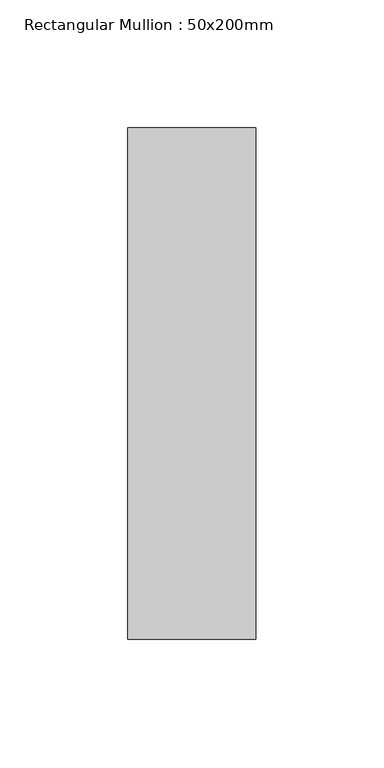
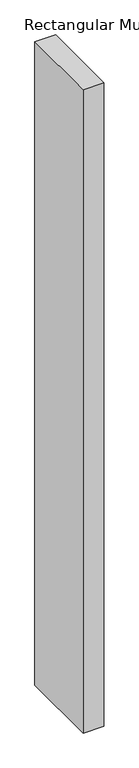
"""IFC4 building model written with IfcOpenShell, lengths in millimetres: member geometry, Rectangular Mullion : 50x200mm."""

from ifc_helpers import new_model, si_unit, frame, origin, place, context, project, spatial, polyline, outline, extrude, source, transform, mapped, element, save


def rectangular_mullion_50x200mm_52c891db(model_context):
    return source(origin(), model_context, "Body", "SweptSolid", [
        extrude(outline(polyline([(0.0, 100.0), (0.0, -100.0), (-50.0, -100.0), (-50.0, 100.0), (0.0, 100.0)])), frame((0.0, 0.0, -1633.1724393), z_axis=(0.0, 0.0, 1.0), x_axis=(1.0, 0.0, 0.0)), (0.0, 0.0, 1.0), 1633.1724393),
    ])


if __name__ == "__main__":
    model = new_model("IFC4")
    model_context = context("Model", 3, world=origin())
    ifc_project = project(units=[si_unit("LENGTHUNIT", "METRE", prefix="MILLI")], contexts=[model_context])
    site = spatial("IfcSite", under=ifc_project)
    building = spatial("IfcBuilding", under=site)
    placement = place(None, origin())
    rectangular_mullion_50x200mm_shape = rectangular_mullion_50x200mm_52c891db(model_context)
    element("IfcMember", 1, ObjectType="Rectangular Mullion : 50x200mm", at=placement, inside=building, context=model_context, shape_type="MappedRepresentation", body=[
        mapped(rectangular_mullion_50x200mm_shape, transform((0.0, 0.0, 0.0), x_axis=(1.0, 0.0, 0.0), y_axis=(0.0, 1.0, 0.0), z_axis=(0.0, 0.0, 1.0))),
    ])
    save(model, "model.ifc")
